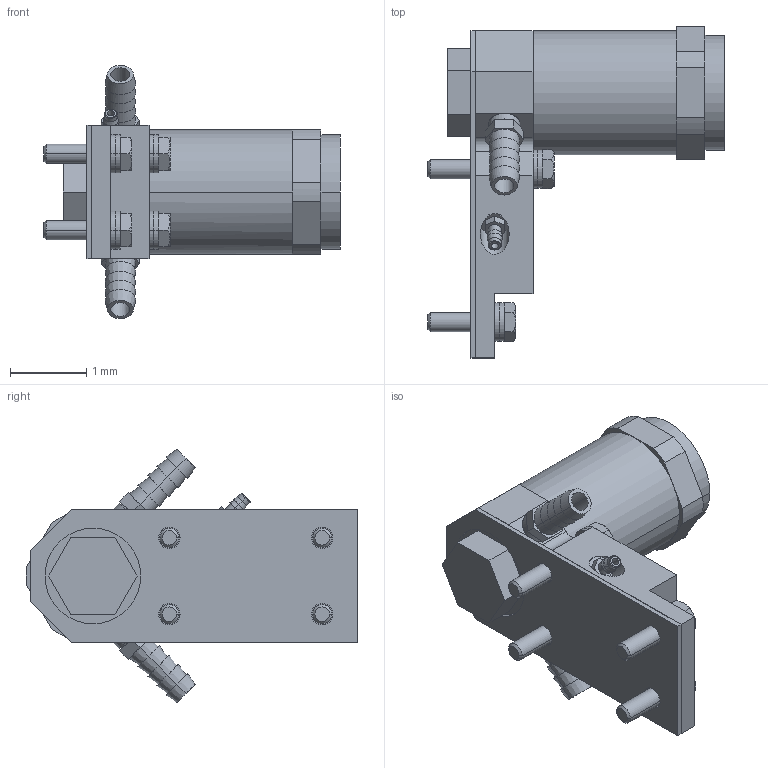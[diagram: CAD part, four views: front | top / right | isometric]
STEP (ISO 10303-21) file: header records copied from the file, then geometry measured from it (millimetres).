
FILE_DESCRIPTION((''),'2;1');
FILE_NAME('UM4.stp','2017-11-07T11:35:44',(''),(''),'Mechanical Desktop 2011','Mechanical Desktop 2011',', , ');
FILE_SCHEMA(('CONFIG_CONTROL_DESIGN'));
Length unit declared in the file: millimetre
Products named in the file (1): Product
Bounding box: 3.88 x 4.34 x 3.31 mm (x, y, z)
Volume: 10.6 mm3; surface area: 85.1 mm2
Topology: 22 solids, 22 shells, 337 faces, 737 edges, 474 vertices
Faces by surface type: plane 132, cylinder 103, cone 62, bspline 36, torus 4
Full cylindrical faces by diameter (mm): 0.375 x1
Entity records: 9919 total; most frequent: CARTESIAN_POINT 2315, DIRECTION 1624, ORIENTED_EDGE 1474, EDGE_CURVE 737, AXIS2_PLACEMENT_3D 635, VERTEX_POINT 474, EDGE_LOOP 411, VECTOR 354
